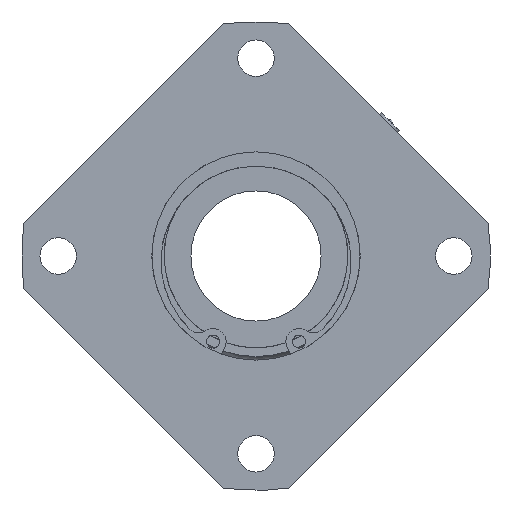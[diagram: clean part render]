
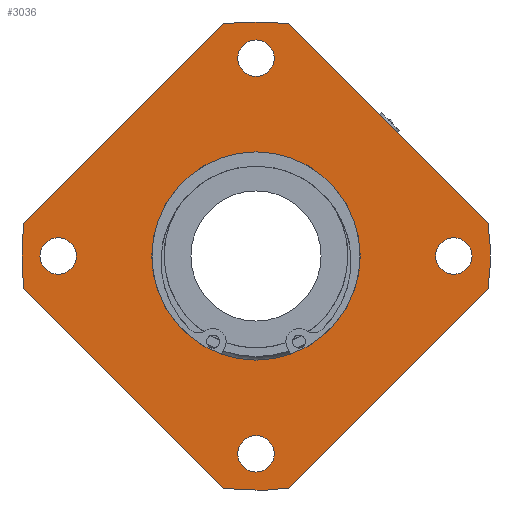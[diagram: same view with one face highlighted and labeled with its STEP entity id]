
A CAD part, left-side view. The second image highlights one B-rep face of the part: STEP entity #3036.
In plain terms, the highlighted planar face has unit normal (-1, 0, 0).
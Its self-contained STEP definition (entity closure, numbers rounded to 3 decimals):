
#2659=CARTESIAN_POINT('',(0.0,0.0,20.));
#2660=VERTEX_POINT('',#2659);
#2661=CARTESIAN_POINT('',(0.0,0.0,0.0));
#2662=DIRECTION('',(-1.0,0.0,0.0));
#2663=DIRECTION('',(0.0,0.0,1.0));
#2664=AXIS2_PLACEMENT_3D('',#2661,#2662,#2663);
#2665=CIRCLE('',#2664,20.);
#2666=EDGE_CURVE('',#2660,#2660,#2665,.T.);
#2751=CARTESIAN_POINT('',(0.0,-44.548,-6.364));
#2752=VERTEX_POINT('',#2751);
#2759=CARTESIAN_POINT('',(0.0,-6.364,-44.548));
#2760=VERTEX_POINT('',#2759);
#2761=CARTESIAN_POINT('',(0.0,-6.364,-44.548));
#2762=DIRECTION('',(0.0,-0.707,0.707));
#2763=VECTOR('',#2762,54.);
#2764=LINE('',#2761,#2763);
#2765=EDGE_CURVE('',#2760,#2752,#2764,.T.);
#2791=CARTESIAN_POINT('',(0.0,44.548,6.364));
#2792=VERTEX_POINT('',#2791);
#2799=CARTESIAN_POINT('',(0.0,6.364,44.548));
#2800=VERTEX_POINT('',#2799);
#2801=CARTESIAN_POINT('',(0.0,6.364,44.548));
#2802=DIRECTION('',(0.0,0.707,-0.707));
#2803=VECTOR('',#2802,54.);
#2804=LINE('',#2801,#2803);
#2805=EDGE_CURVE('',#2800,#2792,#2804,.T.);
#2831=CARTESIAN_POINT('',(0.0,6.364,-44.548));
#2832=VERTEX_POINT('',#2831);
#2839=CARTESIAN_POINT('',(0.0,44.548,-6.364));
#2840=VERTEX_POINT('',#2839);
#2841=CARTESIAN_POINT('',(0.0,44.548,-6.364));
#2842=DIRECTION('',(0.0,-0.707,-0.707));
#2843=VECTOR('',#2842,54.);
#2844=LINE('',#2841,#2843);
#2845=EDGE_CURVE('',#2840,#2832,#2844,.T.);
#2871=CARTESIAN_POINT('',(0.0,-6.364,44.548));
#2872=VERTEX_POINT('',#2871);
#2879=CARTESIAN_POINT('',(0.0,-44.548,6.364));
#2880=VERTEX_POINT('',#2879);
#2881=CARTESIAN_POINT('',(0.0,-44.548,6.364));
#2882=DIRECTION('',(0.0,0.707,0.707));
#2883=VECTOR('',#2882,54.);
#2884=LINE('',#2881,#2883);
#2885=EDGE_CURVE('',#2880,#2872,#2884,.T.);
#2910=CARTESIAN_POINT('',(0.0,0.0,0.0));
#2911=DIRECTION('',(-1.0,0.0,0.0));
#2912=DIRECTION('',(0.0,0.0,1.0));
#2913=AXIS2_PLACEMENT_3D('',#2910,#2911,#2912);
#2914=CIRCLE('',#2913,45.0);
#2915=EDGE_CURVE('',#2752,#2880,#2914,.T.);
#2934=CARTESIAN_POINT('',(0.0,0.0,0.0));
#2935=DIRECTION('',(-1.0,0.0,0.0));
#2936=DIRECTION('',(0.0,0.0,1.0));
#2937=AXIS2_PLACEMENT_3D('',#2934,#2935,#2936);
#2938=CIRCLE('',#2937,45.0);
#2939=EDGE_CURVE('',#2792,#2840,#2938,.T.);
#2950=CARTESIAN_POINT('',(0.0,0.0,0.0));
#2951=DIRECTION('',(-1.0,0.0,0.0));
#2952=DIRECTION('',(0.0,0.0,1.0));
#2953=AXIS2_PLACEMENT_3D('',#2950,#2951,#2952);
#2954=CIRCLE('',#2953,45.0);
#2955=EDGE_CURVE('',#2872,#2800,#2954,.T.);
#2968=CARTESIAN_POINT('',(0.0,0.0,32.5));
#2969=DIRECTION('',(-1.0,0.0,0.0));
#2970=DIRECTION('',(0.0,0.0,1.0));
#2971=AXIS2_PLACEMENT_3D('',#2968,#2969,#2970);
#2972=PLANE('',#2971);
#2973=ORIENTED_EDGE('',*,*,#2765,.T.);
#2974=ORIENTED_EDGE('',*,*,#2915,.T.);
#2975=ORIENTED_EDGE('',*,*,#2885,.T.);
#2976=ORIENTED_EDGE('',*,*,#2955,.T.);
#2977=ORIENTED_EDGE('',*,*,#2805,.T.);
#2978=ORIENTED_EDGE('',*,*,#2939,.T.);
#2979=ORIENTED_EDGE('',*,*,#2845,.T.);
#2980=CARTESIAN_POINT('',(0.0,0.0,0.0));
#2981=DIRECTION('',(-1.0,0.0,0.0));
#2982=DIRECTION('',(0.0,0.0,1.0));
#2983=AXIS2_PLACEMENT_3D('',#2980,#2981,#2982);
#2984=CIRCLE('',#2983,45.0);
#2985=EDGE_CURVE('',#2832,#2760,#2984,.T.);
#2986=ORIENTED_EDGE('',*,*,#2985,.T.);
#2987=EDGE_LOOP('',(#2973,#2974,#2975,#2976,#2977,#2978,#2979,#2986));
#2988=FACE_OUTER_BOUND('',#2987,.T.);
#2989=ORIENTED_EDGE('',*,*,#2666,.F.);
#2990=EDGE_LOOP('',(#2989));
#2991=FACE_BOUND('',#2990,.T.);
#2992=CARTESIAN_POINT('',(0.0,3.5,38.0));
#2993=VERTEX_POINT('',#2992);
#2994=CARTESIAN_POINT('',(0.0,0.,38.0));
#2995=DIRECTION('',(1.0,0.0,0.0));
#2996=DIRECTION('',(0.0,1.0,0.0));
#2997=AXIS2_PLACEMENT_3D('',#2994,#2995,#2996);
#2998=CIRCLE('',#2997,3.5);
#2999=EDGE_CURVE('',#2993,#2993,#2998,.T.);
#3000=ORIENTED_EDGE('',*,*,#2999,.T.);
#3001=EDGE_LOOP('',(#3000));
#3002=FACE_BOUND('',#3001,.T.);
#3003=CARTESIAN_POINT('',(0.0,-38.0,3.5));
#3004=VERTEX_POINT('',#3003);
#3005=CARTESIAN_POINT('',(0.0,-38.0,0.));
#3006=DIRECTION('',(1.0,0.0,0.0));
#3007=DIRECTION('',(0.0,0.0,1.0));
#3008=AXIS2_PLACEMENT_3D('',#3005,#3006,#3007);
#3009=CIRCLE('',#3008,3.5);
#3010=EDGE_CURVE('',#3004,#3004,#3009,.T.);
#3011=ORIENTED_EDGE('',*,*,#3010,.T.);
#3012=EDGE_LOOP('',(#3011));
#3013=FACE_BOUND('',#3012,.T.);
#3014=CARTESIAN_POINT('',(0.0,-3.5,-38.0));
#3015=VERTEX_POINT('',#3014);
#3016=CARTESIAN_POINT('',(0.0,0.,-38.0));
#3017=DIRECTION('',(1.0,0.0,0.0));
#3018=DIRECTION('',(0.0,-1.0,0.0));
#3019=AXIS2_PLACEMENT_3D('',#3016,#3017,#3018);
#3020=CIRCLE('',#3019,3.5);
#3021=EDGE_CURVE('',#3015,#3015,#3020,.T.);
#3022=ORIENTED_EDGE('',*,*,#3021,.T.);
#3023=EDGE_LOOP('',(#3022));
#3024=FACE_BOUND('',#3023,.T.);
#3025=CARTESIAN_POINT('',(0.0,38.0,-3.5));
#3026=VERTEX_POINT('',#3025);
#3027=CARTESIAN_POINT('',(0.0,38.0,0.0));
#3028=DIRECTION('',(1.0,0.0,0.0));
#3029=DIRECTION('',(0.0,0.0,-1.0));
#3030=AXIS2_PLACEMENT_3D('',#3027,#3028,#3029);
#3031=CIRCLE('',#3030,3.5);
#3032=EDGE_CURVE('',#3026,#3026,#3031,.T.);
#3033=ORIENTED_EDGE('',*,*,#3032,.T.);
#3034=EDGE_LOOP('',(#3033));
#3035=FACE_BOUND('',#3034,.T.);
#3036=ADVANCED_FACE('',(#2988,#2991,#3002,#3013,#3024,#3035),#2972,.T.);
